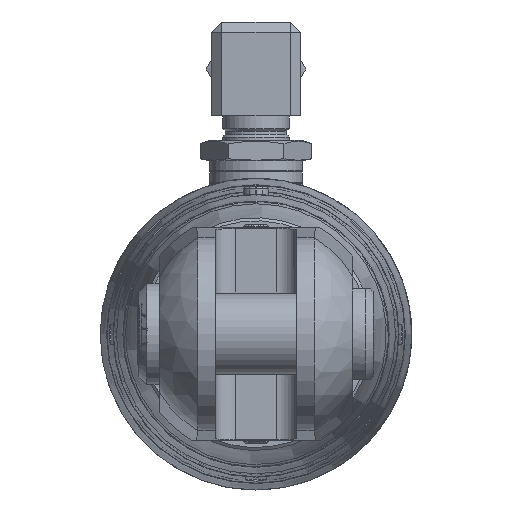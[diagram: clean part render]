
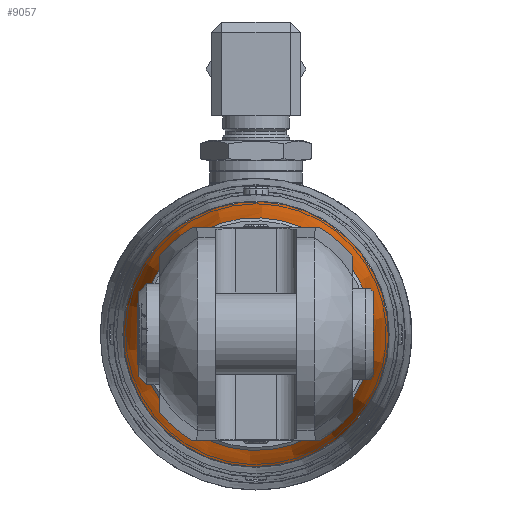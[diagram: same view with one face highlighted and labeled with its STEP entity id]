
A CAD part, left-side view. The second image highlights one B-rep face of the part: STEP entity #9057.
In plain terms, the highlighted conical face has half-angle 10 degrees and reference radius 24.512 mm.
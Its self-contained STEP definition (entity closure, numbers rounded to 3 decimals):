
#246=CONICAL_SURFACE('',#9749,24.512,0.175);
#1242=LINE('',#14102,#1829);
#1829=VECTOR('',#11274,24.512);
#2418=FACE_OUTER_BOUND('',#2940,.T.);
#2940=EDGE_LOOP('',(#6844,#6845,#6846,#6847,#6848,#6849));
#3474=CIRCLE('',#9747,22.924);
#3475=CIRCLE('',#9748,22.924);
#3476=CIRCLE('',#9750,26.101);
#3477=CIRCLE('',#9751,26.101);
#4083=VERTEX_POINT('',#14095);
#4084=VERTEX_POINT('',#14097);
#4085=VERTEX_POINT('',#14101);
#4086=VERTEX_POINT('',#14103);
#5099=EDGE_CURVE('',#4083,#4084,#3474,.T.);
#5100=EDGE_CURVE('',#4084,#4083,#3475,.T.);
#5101=EDGE_CURVE('',#4084,#4085,#1242,.T.);
#5102=EDGE_CURVE('',#4086,#4085,#3476,.T.);
#5103=EDGE_CURVE('',#4085,#4086,#3477,.T.);
#6844=ORIENTED_EDGE('',*,*,#5099,.F.);
#6845=ORIENTED_EDGE('',*,*,#5100,.F.);
#6846=ORIENTED_EDGE('',*,*,#5101,.T.);
#6847=ORIENTED_EDGE('',*,*,#5102,.F.);
#6848=ORIENTED_EDGE('',*,*,#5103,.F.);
#6849=ORIENTED_EDGE('',*,*,#5101,.F.);
#9057=ADVANCED_FACE('',(#2418),#246,.T.);
#9747=AXIS2_PLACEMENT_3D('',#14098,#11268,#11269);
#9748=AXIS2_PLACEMENT_3D('',#14099,#11270,#11271);
#9749=AXIS2_PLACEMENT_3D('',#14100,#11272,#11273);
#9750=AXIS2_PLACEMENT_3D('',#14104,#11275,#11276);
#9751=AXIS2_PLACEMENT_3D('',#14105,#11277,#11278);
#11268=DIRECTION('center_axis',(-1.,0.,0.));
#11269=DIRECTION('ref_axis',(0.,0.605,0.796));
#11270=DIRECTION('center_axis',(-1.,0.,0.));
#11271=DIRECTION('ref_axis',(0.,0.605,0.796));
#11272=DIRECTION('center_axis',(1.,0.,0.));
#11273=DIRECTION('ref_axis',(0.,-0.605,-0.796));
#11274=DIRECTION('',(0.985,0.105,0.138));
#11275=DIRECTION('center_axis',(1.,0.,0.));
#11276=DIRECTION('ref_axis',(0.,0.605,0.796));
#11277=DIRECTION('center_axis',(1.,0.,0.));
#11278=DIRECTION('ref_axis',(0.,0.605,0.796));
#14095=CARTESIAN_POINT('',(-720.258,-13.877,-18.247));
#14097=CARTESIAN_POINT('',(-720.258,13.877,18.247));
#14098=CARTESIAN_POINT('Origin',(-720.258,0.,
0.));
#14099=CARTESIAN_POINT('Origin',(-720.258,0.,
0.));
#14100=CARTESIAN_POINT('Origin',(-711.25,0.,0.));
#14101=CARTESIAN_POINT('',(-702.242,15.8,20.775));
#14102=CARTESIAN_POINT('',(-711.25,14.839,19.511));
#14103=CARTESIAN_POINT('',(-702.242,-15.8,-20.775));
#14104=CARTESIAN_POINT('Origin',(-702.242,0.,
0.));
#14105=CARTESIAN_POINT('Origin',(-702.242,0.,
0.));
